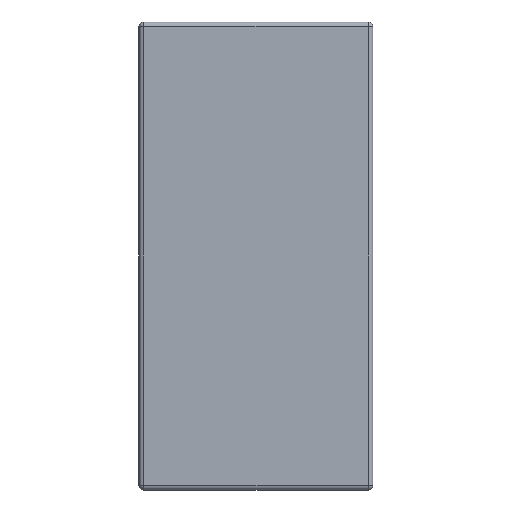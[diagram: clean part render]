
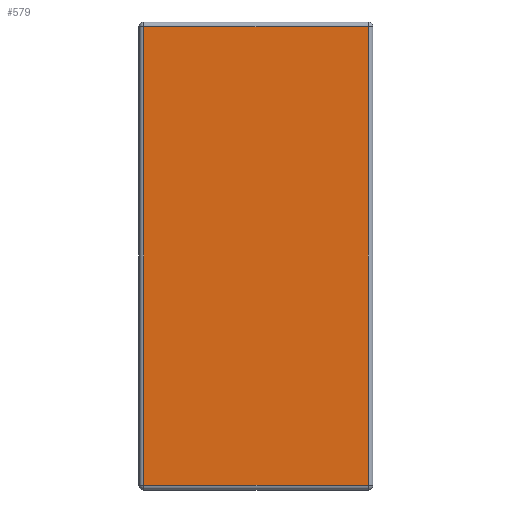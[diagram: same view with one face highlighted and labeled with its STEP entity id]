
A CAD part, front view. The second image highlights one B-rep face of the part: STEP entity #579.
In plain terms, the highlighted planar face has unit normal (0, -1, 0).
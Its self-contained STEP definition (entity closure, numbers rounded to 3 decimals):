
#38=PLANE('',#671);
#74=FACE_OUTER_BOUND('',#119,.T.);
#119=EDGE_LOOP('',(#486,#487,#488,#489));
#149=LINE('',#970,#191);
#151=LINE('',#978,#193);
#153=LINE('',#988,#195);
#155=LINE('',#997,#197);
#191=VECTOR('',#787,10.);
#193=VECTOR('',#795,10.);
#195=VECTOR('',#807,10.);
#197=VECTOR('',#819,10.);
#275=VERTEX_POINT('',#963);
#278=VERTEX_POINT('',#968);
#279=VERTEX_POINT('',#972);
#282=VERTEX_POINT('',#982);
#338=EDGE_CURVE('',#278,#275,#149,.T.);
#342=EDGE_CURVE('',#275,#279,#151,.T.);
#347=EDGE_CURVE('',#279,#282,#153,.T.);
#352=EDGE_CURVE('',#282,#278,#155,.T.);
#486=ORIENTED_EDGE('',*,*,#338,.F.);
#487=ORIENTED_EDGE('',*,*,#352,.F.);
#488=ORIENTED_EDGE('',*,*,#347,.F.);
#489=ORIENTED_EDGE('',*,*,#342,.F.);
#579=ADVANCED_FACE('',(#74),#38,.T.);
#671=AXIS2_PLACEMENT_3D('',#1020,#847,#848);
#787=DIRECTION('',(0.,0.,1.));
#795=DIRECTION('',(1.,0.,0.));
#807=DIRECTION('',(0.,0.,-1.));
#819=DIRECTION('',(-1.,0.,0.));
#847=DIRECTION('center_axis',(0.,-1.,0.));
#848=DIRECTION('ref_axis',(0.,0.,-1.));
#963=CARTESIAN_POINT('',(-24.9,0.,-0.5));
#968=CARTESIAN_POINT('',(-24.9,0.,-50.3));
#970=CARTESIAN_POINT('',(-24.9,0.,-38.1));
#972=CARTESIAN_POINT('',(-0.5,0.,-0.5));
#978=CARTESIAN_POINT('',(-19.05,0.,-0.5));
#982=CARTESIAN_POINT('',(-0.5,0.,-50.3));
#988=CARTESIAN_POINT('',(-0.5,0.,-12.7));
#997=CARTESIAN_POINT('',(-6.35,0.,-50.3));
#1020=CARTESIAN_POINT('Origin',(-12.7,0.,-25.4));
